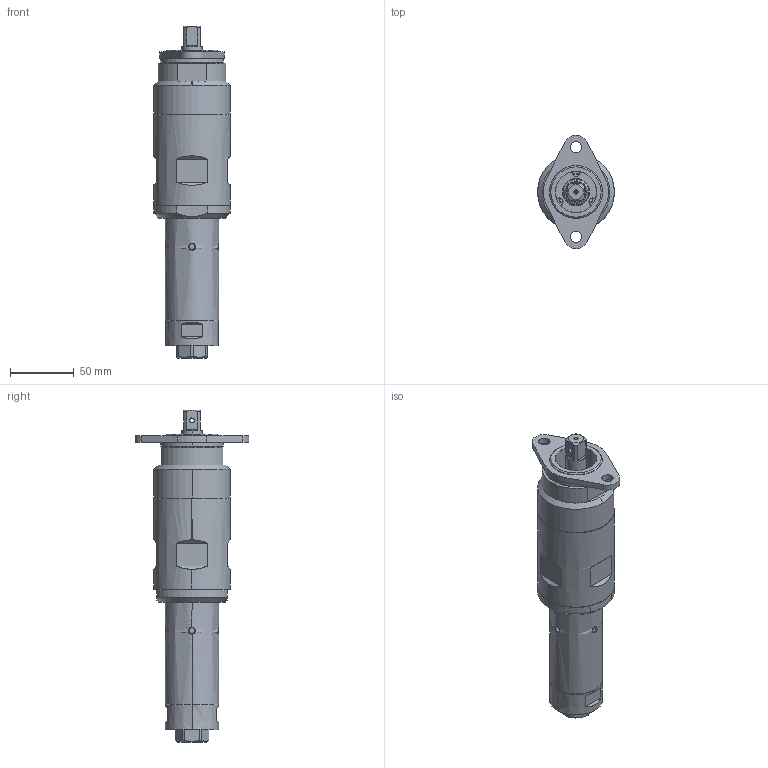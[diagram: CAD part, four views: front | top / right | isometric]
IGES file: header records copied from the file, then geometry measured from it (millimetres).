
Start section:  PTC IGES file: 2051481604.igs
Global section: file name: 2051481604.igs; native system: Creo Parametric by PTC Inc.; preprocessor: 2019080; author: greextsd; organization: Unknown; date: 20191211.164444; units: millimetre
Bounding box: 60 x 88.93 x 259.5 mm (x, y, z)
Surface area: 102379.9 mm2 (no closed solid volume)
Topology: 0 solids, 0 shells, 960 faces, 5728 edges, 5724 vertices
Faces by surface type: revolution 706, bspline 254
